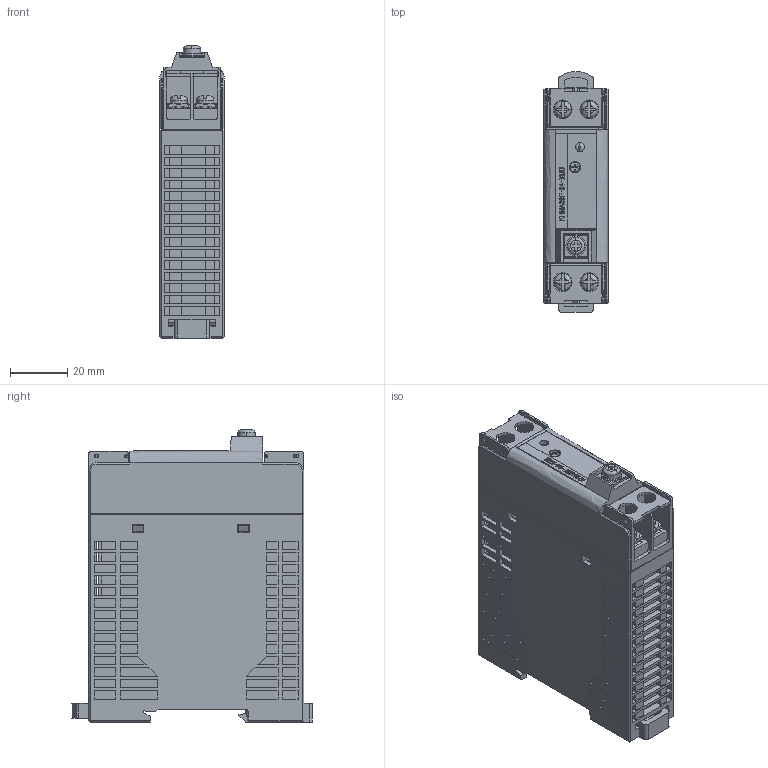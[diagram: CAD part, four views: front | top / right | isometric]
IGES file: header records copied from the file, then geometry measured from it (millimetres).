
Start section: Elysium IGES Interface
Global section: file name: Y:\data\KHA\3D\KHNA-XUB\提出用\khna30f-xub.igs,  ; native system: CoCreate Modeling 17.0  01-Apr-2010; preprocessor: CoCreate IGES_3D V2.2; author: Unknown; organization: Unknown; date: 20150203.160337; units: millimetre
Bounding box: 22.5 x 83.96 x 101.86 mm (x, y, z)
Surface area: 61284 mm2
Topology: 3 solids, 4 shells, 2473 faces, 7547 edges, 4949 vertices
Faces by surface type: bspline 2473
